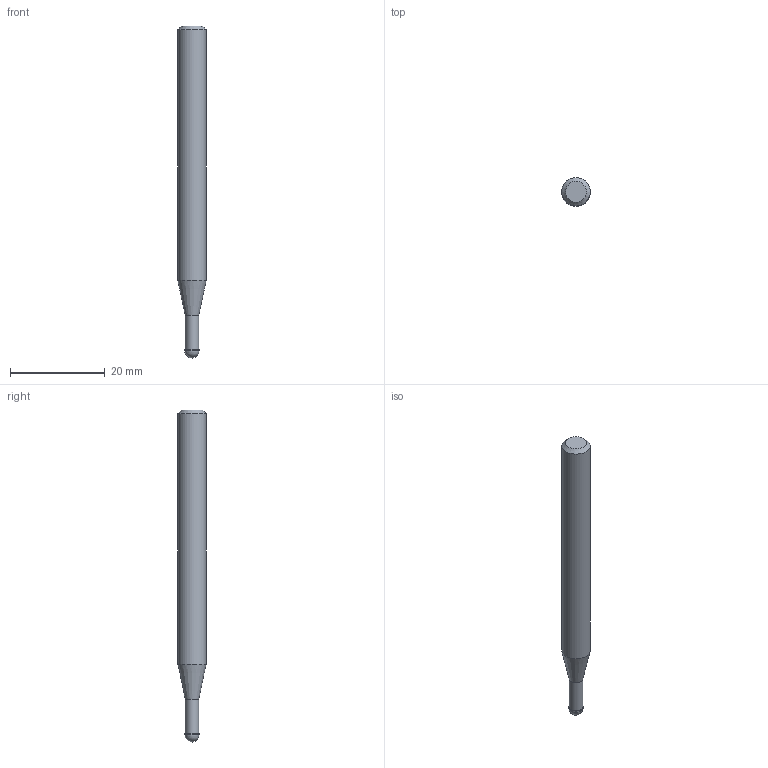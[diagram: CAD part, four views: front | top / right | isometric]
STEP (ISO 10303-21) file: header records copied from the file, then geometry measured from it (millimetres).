
FILE_DESCRIPTION((''),'2;1');
FILE_NAME('C:\Users\nsx150\AppData\Local\Temp\Mastercam 2021\LJSIDMOTM8\TEMP.step','2021-08-03T14:23:16',(''),(''),'STEP Write','Mastercam 2021 ... CNC Software, Inc.','');
FILE_SCHEMA(('AUTOMOTIVE_DESIGN'));
Length unit declared in the file: millimetre
Products named in the file (1): None
Bounding box: 6 x 6 x 70 mm (x, y, z)
Volume: 1683.6 mm3; surface area: 1228.9 mm2
Topology: 2 solids, 2 shells, 9 faces, 14 edges, 8 vertices
Faces by surface type: plane 3, cylinder 3, cone 2, sphere 1
Full cylindrical faces by diameter (mm): 2.85 x1, 3 x1, 6 x1
Entity records: 211 total; most frequent: DIRECTION 36, CARTESIAN_POINT 25, AXIS2_PLACEMENT_3D 18, ORIENTED_EDGE 14, EDGE_LOOP 14, STYLED_ITEM 12, ADVANCED_FACE 9, FACE_BOUND 8
